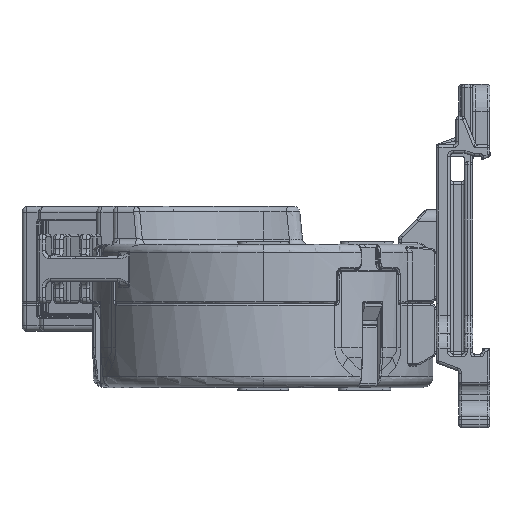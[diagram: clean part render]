
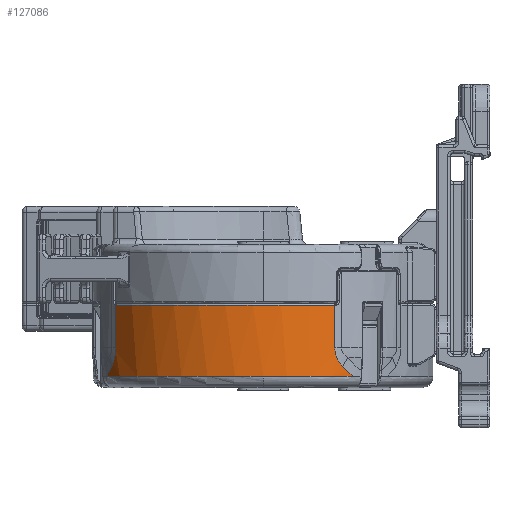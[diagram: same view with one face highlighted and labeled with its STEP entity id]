
A CAD part, left-side view. The second image highlights one B-rep face of the part: STEP entity #127086.
In plain terms, the highlighted cylindrical face has radius 30 mm (diameter 60 mm), a partial arc.
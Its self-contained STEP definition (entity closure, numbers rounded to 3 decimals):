
#4304 = CARTESIAN_POINT ( 'NONE',  ( -15.041, 64.357, -8.115 ) ) ;
#4585 = ORIENTED_EDGE ( 'NONE', *, *, #146459, .T. ) ;
#6210 = CARTESIAN_POINT ( 'NONE',  ( -12.1, 65.854, -12.55 ) ) ;
#7363 = CARTESIAN_POINT ( 'NONE',  ( -26.544, 24.421, -11.048 ) ) ;
#12910 = VECTOR ( 'NONE', #16626, 1000. ) ;
#14183 = DIRECTION ( 'NONE',  ( 0., 0., 1. ) ) ;
#14815 = VERTEX_POINT ( 'NONE', #48130 ) ;
#16626 = DIRECTION ( 'NONE',  ( 0., 0., -1. ) ) ;
#17818 = VERTEX_POINT ( 'NONE', #152849 ) ;
#19174 = CARTESIAN_POINT ( 'NONE',  ( -27.133, 25.602, -9.018 ) ) ;
#19996 = CARTESIAN_POINT ( 'NONE',  ( -26.973, 25.267, -9.858 ) ) ;
#20824 = CARTESIAN_POINT ( 'NONE',  ( -27.089, 25.507, -9.306 ) ) ;
#21641 = CARTESIAN_POINT ( 'NONE',  ( -27.194, 25.731, -8.419 ) ) ;
#22248 = VERTEX_POINT ( 'NONE', #154228 ) ;
#22815 = CARTESIAN_POINT ( 'NONE',  ( -15.041, 64.357, -7.808 ) ) ;
#22943 = EDGE_CURVE ( 'NONE', #23440, #14815, #23495, .T. ) ;
#23355 = VERTEX_POINT ( 'NONE', #92102 ) ;
#23440 = VERTEX_POINT ( 'NONE', #70689 ) ;
#23495 = LINE ( 'NONE', #73530, #30659 ) ;
#27222 = ORIENTED_EDGE ( 'NONE', *, *, #155803, .T. ) ;
#28640 = DIRECTION ( 'NONE',  ( 1., 0., 0. ) ) ;
#30659 = VECTOR ( 'NONE', #123588, 1000. ) ;
#30834 = CARTESIAN_POINT ( 'NONE',  ( -13.726, 65.076, -11.048 ) ) ;
#31357 = ORIENTED_EDGE ( 'NONE', *, *, #158789, .T. ) ;
#32736 = ORIENTED_EDGE ( 'NONE', *, *, #22943, .T. ) ;
#38280 = DIRECTION ( 'NONE',  ( 1., 0., 0. ) ) ;
#39635 = DIRECTION ( 'NONE',  ( 1., 0., 0. ) ) ;
#42673 = CARTESIAN_POINT ( 'NONE',  ( -26.229, 23.823, -11.699 ) ) ;
#43975 = CARTESIAN_POINT ( 'NONE',  ( -12.449, 65.697, -12.274 ) ) ;
#44526 = CARTESIAN_POINT ( 'NONE',  ( -14.423, 64.706, -10.116 ) ) ;
#45344 = CARTESIAN_POINT ( 'NONE',  ( -14.101, 64.88, -10.607 ) ) ;
#46279 = CARTESIAN_POINT ( 'NONE',  ( -26.902, 25.121, -10.12 ) ) ;
#46448 = CARTESIAN_POINT ( 'NONE',  ( 0., 38.4, -12.8 ) ) ;
#47267 = DIRECTION ( 'NONE',  ( 1., 0., 0. ) ) ;
#48130 = CARTESIAN_POINT ( 'NONE',  ( -27.209, 25.764, -0.25 ) ) ;
#48684 = CARTESIAN_POINT ( 'NONE',  ( -11.732, 66.011, -12.8 ) ) ;
#56811 = CARTESIAN_POINT ( 'NONE',  ( -14.886, 64.446, -9.016 ) ) ;
#57644 = CARTESIAN_POINT ( 'NONE',  ( -13.922, 64.975, -10.835 ) ) ;
#65071 = FACE_OUTER_BOUND ( 'NONE', #148973, .T. ) ;
#69392 = CARTESIAN_POINT ( 'NONE',  ( -13.112, 65.386, -11.685 ) ) ;
#70086 = CARTESIAN_POINT ( 'NONE',  ( -30., 38.4, -12.8 ) ) ;
#70521 = CARTESIAN_POINT ( 'NONE',  ( -25.87, 23.19, -12.301 ) ) ;
#70689 = CARTESIAN_POINT ( 'NONE',  ( -27.209, 25.764, -7.808 ) ) ;
#72432 = CARTESIAN_POINT ( 'NONE',  ( -15.041, 64.357, -0.25 ) ) ;
#73530 = CARTESIAN_POINT ( 'NONE',  ( -27.209, 25.764, -14.8 ) ) ;
#77531 = VERTEX_POINT ( 'NONE', #70086 ) ;
#78160 = CARTESIAN_POINT ( 'NONE',  ( 0., 38.4, -14.8 ) ) ;
#78198 = LINE ( 'NONE', #127431, #12910 ) ;
#82367 = CARTESIAN_POINT ( 'NONE',  ( -27.209, 25.764, -7.808 ) ) ;
#84562 = EDGE_CURVE ( 'NONE', #22248, #154612, #93998, .T. ) ;
#92102 = CARTESIAN_POINT ( 'NONE',  ( -25.447, 22.512, -12.8 ) ) ;
#92805 = EDGE_CURVE ( 'NONE', #130311, #22248, #162371, .T. ) ;
#92838 = ORIENTED_EDGE ( 'NONE', *, *, #154317, .T. ) ;
#93998 = B_SPLINE_CURVE_WITH_KNOTS ( 'NONE', 3,
 ( #30834, #123330, #69392, #43975, #6210, #48684 ),
 .UNSPECIFIED., .F., .F.,
 ( 4, 2, 4 ),
 ( 0.013, 0.015, 0.016 ),
 .UNSPECIFIED. ) ;
#94760 = CIRCLE ( 'NONE', #152381, 30. ) ;
#96494 = DIRECTION ( 'NONE',  ( 0., 0., 1. ) ) ;
#99935 = CIRCLE ( 'NONE', #149742, 30. ) ;
#101659 = EDGE_CURVE ( 'NONE', #129537, #130311, #78198, .T. ) ;
#102917 = ORIENTED_EDGE ( 'NONE', *, *, #115275, .T. ) ;
#106863 = CARTESIAN_POINT ( 'NONE',  ( -14.794, 64.499, -9.306 ) ) ;
#106976 = CARTESIAN_POINT ( 'NONE',  ( -26.647, 24.617, -10.834 ) ) ;
#107696 = CARTESIAN_POINT ( 'NONE',  ( -13.726, 65.076, -11.048 ) ) ;
#109605 = AXIS2_PLACEMENT_3D ( 'NONE', #78160, #14183, #39635 ) ;
#113462 = ORIENTED_EDGE ( 'NONE', *, *, #101659, .T. ) ;
#114694 = B_SPLINE_CURVE_WITH_KNOTS ( 'NONE', 3,
 ( #145239, #70521, #42673, #7363 ),
 .UNSPECIFIED., .F., .F.,
 ( 4, 4 ),
 ( 0., 0.003 ),
 .UNSPECIFIED. ) ;
#115275 = EDGE_CURVE ( 'NONE', #154612, #77531, #99935, .T. ) ;
#117916 = B_SPLINE_CURVE_WITH_KNOTS ( 'NONE', 3,
 ( #130764, #106976, #144760, #46279, #19996, #20824, #19174, #21641, #156245, #82367 ),
 .UNSPECIFIED., .F., .F.,
 ( 4, 2, 2, 2, 4 ),
 ( 0., 0.001, 0.002, 0.003, 0.004 ),
 .UNSPECIFIED. ) ;
#118858 = CARTESIAN_POINT ( 'NONE',  ( 0., 38.4, -0.25 ) ) ;
#121303 = ORIENTED_EDGE ( 'NONE', *, *, #84562, .T. ) ;
#123330 = CARTESIAN_POINT ( 'NONE',  ( -13.425, 65.23, -11.373 ) ) ;
#123588 = DIRECTION ( 'NONE',  ( 0., 0., 1. ) ) ;
#126586 = CYLINDRICAL_SURFACE ( 'NONE', #109605, 30. ) ;
#127086 = ADVANCED_FACE ( 'NONE', ( #65071 ), #126586, .T. ) ;
#127431 = CARTESIAN_POINT ( 'NONE',  ( -15.041, 64.357, -14.8 ) ) ;
#129519 = DIRECTION ( 'NONE',  ( 0., 0., -1. ) ) ;
#129537 = VERTEX_POINT ( 'NONE', #72432 ) ;
#130311 = VERTEX_POINT ( 'NONE', #22815 ) ;
#130764 = CARTESIAN_POINT ( 'NONE',  ( -26.544, 24.421, -11.048 ) ) ;
#131471 = CARTESIAN_POINT ( 'NONE',  ( -15.041, 64.357, -7.808 ) ) ;
#132966 = ORIENTED_EDGE ( 'NONE', *, *, #92805, .T. ) ;
#143819 = CARTESIAN_POINT ( 'NONE',  ( -15.009, 64.376, -8.421 ) ) ;
#144760 = CARTESIAN_POINT ( 'NONE',  ( -26.739, 24.797, -10.607 ) ) ;
#145239 = CARTESIAN_POINT ( 'NONE',  ( -25.447, 22.512, -12.8 ) ) ;
#146459 = EDGE_CURVE ( 'NONE', #23355, #17818, #114694, .T. ) ;
#148973 = EDGE_LOOP ( 'NONE', ( #32736, #27222, #113462, #132966, #121303, #102917, #92838, #4585, #31357 ) ) ;
#149742 = AXIS2_PLACEMENT_3D ( 'NONE', #46448, #96494, #47267 ) ;
#152337 = CARTESIAN_POINT ( 'NONE',  ( 0., 38.4, -12.8 ) ) ;
#152381 = AXIS2_PLACEMENT_3D ( 'NONE', #118858, #129519, #28640 ) ;
#152849 = CARTESIAN_POINT ( 'NONE',  ( -26.544, 24.421, -11.048 ) ) ;
#153127 = DIRECTION ( 'NONE',  ( 0., 0., 1. ) ) ;
#154228 = CARTESIAN_POINT ( 'NONE',  ( -13.726, 65.076, -11.048 ) ) ;
#154317 = EDGE_CURVE ( 'NONE', #77531, #23355, #159971, .T. ) ;
#154612 = VERTEX_POINT ( 'NONE', #161255 ) ;
#155803 = EDGE_CURVE ( 'NONE', #14815, #129537, #94760, .T. ) ;
#156245 = CARTESIAN_POINT ( 'NONE',  ( -27.209, 25.764, -8.116 ) ) ;
#156949 = CARTESIAN_POINT ( 'NONE',  ( -14.564, 64.628, -9.854 ) ) ;
#157372 = AXIS2_PLACEMENT_3D ( 'NONE', #152337, #153127, #38280 ) ;
#158789 = EDGE_CURVE ( 'NONE', #17818, #23440, #117916, .T. ) ;
#159971 = CIRCLE ( 'NONE', #157372, 30. ) ;
#161255 = CARTESIAN_POINT ( 'NONE',  ( -11.732, 66.011, -12.8 ) ) ;
#162371 = B_SPLINE_CURVE_WITH_KNOTS ( 'NONE', 3,
 ( #131471, #4304, #143819, #56811, #106863, #156949, #44526, #45344, #57644, #107696 ),
 .UNSPECIFIED., .F., .F.,
 ( 4, 2, 2, 2, 4 ),
 ( 0., 0.001, 0.002, 0.003, 0.004 ),
 .UNSPECIFIED. ) ;
